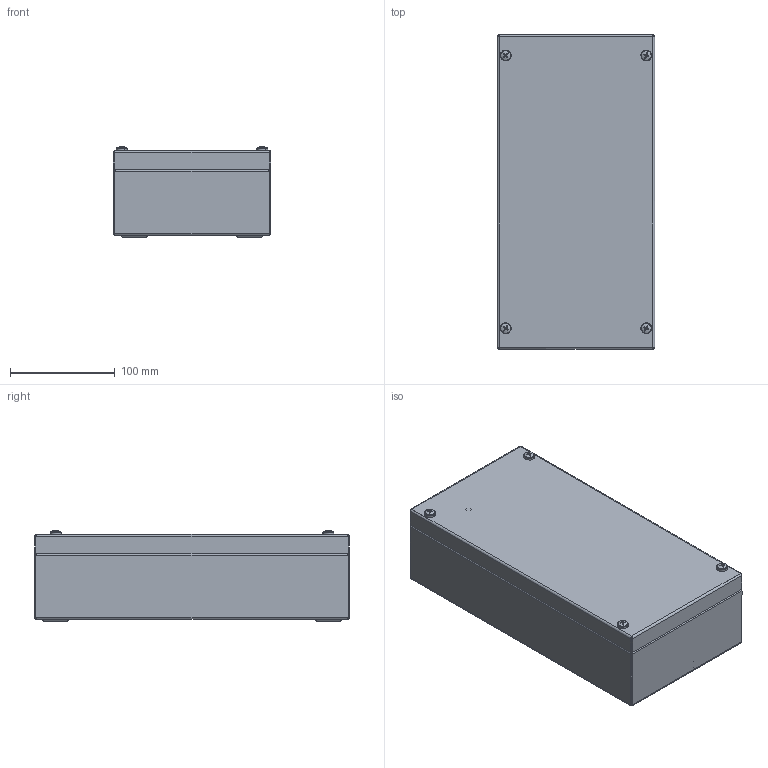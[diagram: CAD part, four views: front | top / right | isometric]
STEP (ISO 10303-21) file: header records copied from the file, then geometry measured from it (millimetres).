
FILE_DESCRIPTION (( 'STEP AP203' ), '1' );
FILE_NAME ('SS JB-300 x 150 x 81-Assembly.STEP', '2020-03-13T10:35:26', ( '' ), ( '' ), 'SwSTEP 2.0', 'SolidWorks 2018', '' );
FILE_SCHEMA (( 'CONFIG_CONTROL_DESIGN' ));
Length unit declared in the file: millimetre
Products named in the file (7): SS JB-300 x 150 x 81-BASE_300 X 150 X 81; Dinral Mounting Channel-150; M5X33 LID SCREW; M5 BLIND NUTSERT; PLASTIC INSERT FOR FABRICATED ENCLOSURE; SS JB-300 x 150 x 81-LID_300 x 150 x 81; SS JB-300 x 150 x 81-Assembly
Assembly tree (16 placements, depth 2):
  SS JB-300 x 150 x 81-Assembly
    SS JB-300 x 150 x 81-BASE_300 X 150 X 81
    Dinral Mounting Channel-150  x2
    SS JB-300 x 150 x 81-LID_300 x 150 x 81
    M5 BLIND NUTSERT  x4
    M5X33 LID SCREW  x4
    PLASTIC INSERT FOR FABRICATED ENCLOSURE  x4
Bounding box: 150 x 300 x 86.81 mm (x, y, z)
Volume: 236614.6 mm3; surface area: 389370.7 mm2
Topology: 16 solids, 16 shells, 731 faces, 1750 edges, 1084 vertices
Faces by surface type: cylinder 322, plane 265, cone 104, bspline 32, sphere 8
Entity records: 15427 total; most frequent: CARTESIAN_POINT 5060, ORIENTED_EDGE 2016, DIRECTION 1787, EDGE_CURVE 1008, VERTEX_POINT 610, AXIS2_PLACEMENT_3D 606, LINE 575, VECTOR 575
